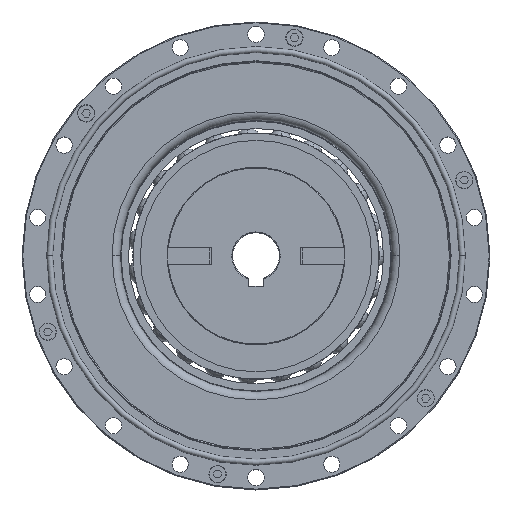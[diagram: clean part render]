
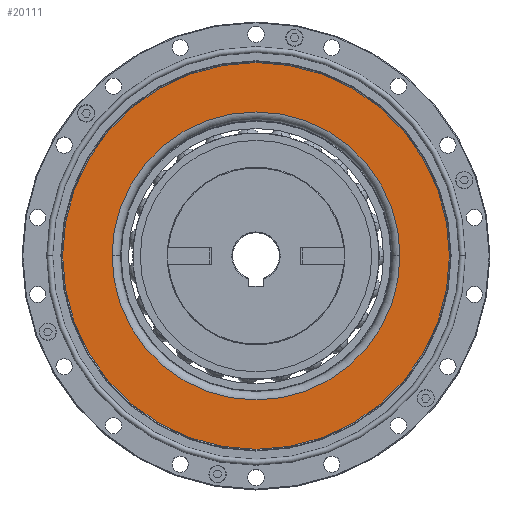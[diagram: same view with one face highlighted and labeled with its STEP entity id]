
A CAD part, top view. The second image highlights one B-rep face of the part: STEP entity #20111.
In plain terms, the highlighted planar face has unit normal (0, 0, 1).
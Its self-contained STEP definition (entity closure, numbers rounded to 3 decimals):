
#1602 = FACE_BOUND ( 'NONE', #5621, .T. ) ;
#2431 = AXIS2_PLACEMENT_3D ( 'NONE', #22904, #10824, #24959 ) ;
#3614 = CARTESIAN_POINT ( 'NONE',  ( 0., 78.55, -3.523 ) ) ;
#3704 = DIRECTION ( 'NONE',  ( 0., 0., -1. ) ) ;
#4307 = VERTEX_POINT ( 'NONE', #14920 ) ;
#5188 = ORIENTED_EDGE ( 'NONE', *, *, #23129, .T. ) ;
#5621 = EDGE_LOOP ( 'NONE', ( #23838, #13924 ) ) ;
#5648 = DIRECTION ( 'NONE',  ( 0., 0., 1. ) ) ;
#6298 = DIRECTION ( 'NONE',  ( 0., 0., 1. ) ) ;
#6855 = CIRCLE ( 'NONE', #2431, 78.55 ) ;
#8119 = ORIENTED_EDGE ( 'NONE', *, *, #21120, .T. ) ;
#8292 = CIRCLE ( 'NONE', #15393, 78.55 ) ;
#8349 = EDGE_LOOP ( 'NONE', ( #5188, #8119 ) ) ;
#8767 = CARTESIAN_POINT ( 'NONE',  ( 0., 0., -3.523 ) ) ;
#10247 = AXIS2_PLACEMENT_3D ( 'NONE', #3614, #3704, #17682 ) ;
#10262 = VERTEX_POINT ( 'NONE', #13927 ) ;
#10777 = DIRECTION ( 'NONE',  ( 1., 0., 0. ) ) ;
#10824 = DIRECTION ( 'NONE',  ( 0., 0., 1. ) ) ;
#11332 = AXIS2_PLACEMENT_3D ( 'NONE', #17646, #5648, #19676 ) ;
#11576 = FACE_OUTER_BOUND ( 'NONE', #8349, .T. ) ;
#12601 = EDGE_CURVE ( 'NONE', #10262, #4307, #18893, .T. ) ;
#13882 = CARTESIAN_POINT ( 'NONE',  ( 78.55, 0., -3.523 ) ) ;
#13924 = ORIENTED_EDGE ( 'NONE', *, *, #12601, .F. ) ;
#13927 = CARTESIAN_POINT ( 'NONE',  ( -58.474, 0., -3.523 ) ) ;
#14920 = CARTESIAN_POINT ( 'NONE',  ( 58.474, 0., -3.523 ) ) ;
#15393 = AXIS2_PLACEMENT_3D ( 'NONE', #18323, #6298, #20344 ) ;
#15586 = PLANE ( 'NONE',  #10247 ) ;
#15716 = VERTEX_POINT ( 'NONE', #13882 ) ;
#17424 = AXIS2_PLACEMENT_3D ( 'NONE', #8767, #22863, #10777 ) ;
#17646 = CARTESIAN_POINT ( 'NONE',  ( 0., 0., -3.523 ) ) ;
#17682 = DIRECTION ( 'NONE',  ( -1., 0., 0. ) ) ;
#18323 = CARTESIAN_POINT ( 'NONE',  ( 0., 0., -3.523 ) ) ;
#18893 = CIRCLE ( 'NONE', #17424, 58.474 ) ;
#19676 = DIRECTION ( 'NONE',  ( 1., 0., 0. ) ) ;
#20111 = ADVANCED_FACE ( 'NONE', ( #1602, #11576 ), #15586, .F. ) ;
#20344 = DIRECTION ( 'NONE',  ( 1., 0., 0. ) ) ;
#21120 = EDGE_CURVE ( 'NONE', #23084, #15716, #6855, .T. ) ;
#22204 = CARTESIAN_POINT ( 'NONE',  ( -78.55, 0., -3.523 ) ) ;
#22863 = DIRECTION ( 'NONE',  ( 0., 0., 1. ) ) ;
#22904 = CARTESIAN_POINT ( 'NONE',  ( 0., 0., -3.523 ) ) ;
#23084 = VERTEX_POINT ( 'NONE', #22204 ) ;
#23129 = EDGE_CURVE ( 'NONE', #15716, #23084, #8292, .T. ) ;
#23838 = ORIENTED_EDGE ( 'NONE', *, *, #24800, .F. ) ;
#24347 = CIRCLE ( 'NONE', #11332, 58.474 ) ;
#24800 = EDGE_CURVE ( 'NONE', #4307, #10262, #24347, .T. ) ;
#24959 = DIRECTION ( 'NONE',  ( 1., 0., 0. ) ) ;
